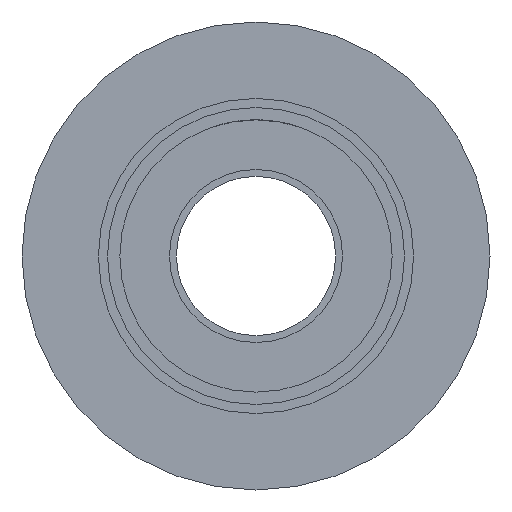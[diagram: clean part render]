
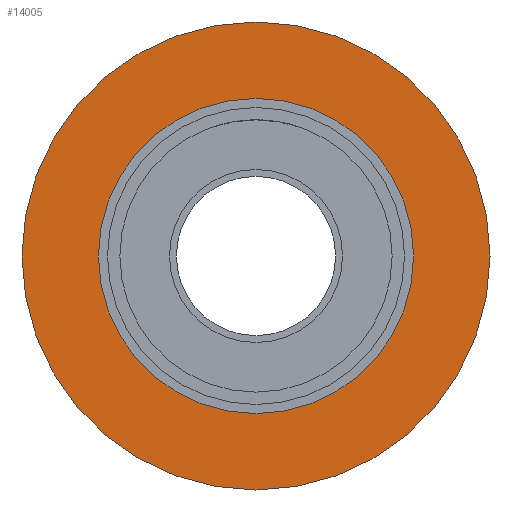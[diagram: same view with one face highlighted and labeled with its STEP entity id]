
A CAD part, front view. The second image highlights one B-rep face of the part: STEP entity #14005.
In plain terms, the highlighted planar face has unit normal (0, -1, 0).
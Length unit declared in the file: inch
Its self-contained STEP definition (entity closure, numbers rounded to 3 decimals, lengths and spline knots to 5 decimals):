
#13971=CARTESIAN_POINT('',(5.41339,11.22047,0.0));
#13972=VERTEX_POINT('',#13971);
#13973=CARTESIAN_POINT('',(0.0,11.22047,0.0));
#13974=DIRECTION('',(0.0,-1.0,0.0));
#13975=DIRECTION('',(1.0,0.0,0.0));
#13976=AXIS2_PLACEMENT_3D('',#13973,#13974,#13975);
#13977=CIRCLE('',#13976,5.41339);
#13978=EDGE_CURVE('',#13972,#13972,#13977,.T.);
#13986=CARTESIAN_POINT('',(4.52953,11.22047,0.0));
#13987=DIRECTION('',(0.0,-1.0,0.0));
#13988=DIRECTION('',(0.0,0.0,-1.0));
#13989=AXIS2_PLACEMENT_3D('',#13986,#13987,#13988);
#13990=PLANE('',#13989);
#13991=ORIENTED_EDGE('',*,*,#13978,.T.);
#13992=EDGE_LOOP('',(#13991));
#13993=FACE_OUTER_BOUND('',#13992,.T.);
#13994=CARTESIAN_POINT('',(3.64567,11.22047,0.0));
#13995=VERTEX_POINT('',#13994);
#13996=CARTESIAN_POINT('',(0.0,11.22047,0.0));
#13997=DIRECTION('',(0.0,-1.0,0.0));
#13998=DIRECTION('',(1.0,0.0,0.0));
#13999=AXIS2_PLACEMENT_3D('',#13996,#13997,#13998);
#14000=CIRCLE('',#13999,3.64567);
#14001=EDGE_CURVE('',#13995,#13995,#14000,.T.);
#14002=ORIENTED_EDGE('',*,*,#14001,.F.);
#14003=EDGE_LOOP('',(#14002));
#14004=FACE_BOUND('',#14003,.T.);
#14005=ADVANCED_FACE('',(#13993,#14004),#13990,.T.);
